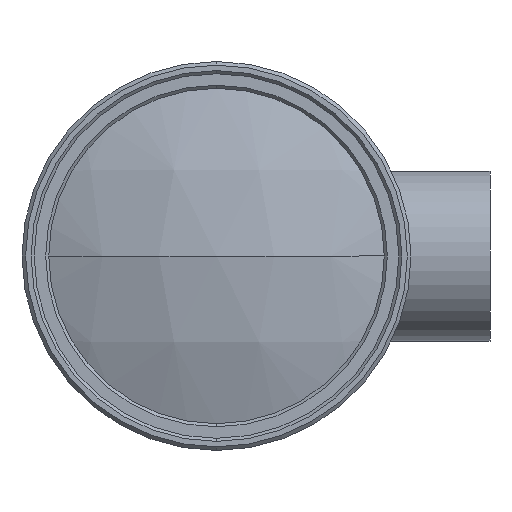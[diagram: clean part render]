
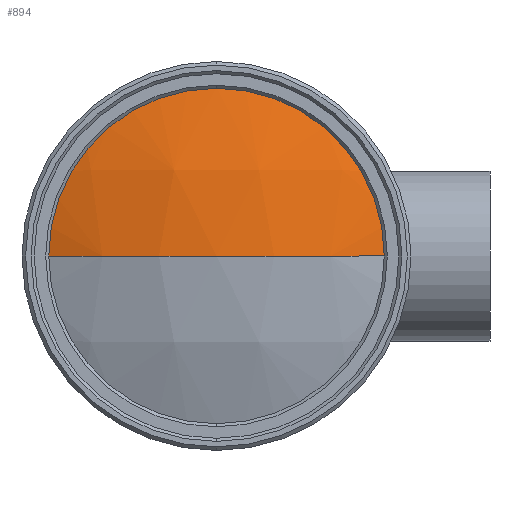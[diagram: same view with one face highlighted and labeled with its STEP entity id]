
A CAD part, left-side view. The second image highlights one B-rep face of the part: STEP entity #894.
In plain terms, the highlighted spherical face has radius 36.75 mm.
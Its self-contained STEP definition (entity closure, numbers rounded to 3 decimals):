
#2 = DIRECTION ( 'NONE',  ( -1., 0., 0. ) ) ;
#82 = CARTESIAN_POINT ( 'NONE',  ( 5.632, -13.9, 0. ) ) ;
#214 = VERTEX_POINT ( 'NONE', #82 ) ;
#302 = AXIS2_PLACEMENT_3D ( 'NONE', #3986, #1995, #2 ) ;
#369 = ORIENTED_EDGE ( 'NONE', *, *, #2816, .T. ) ;
#394 = ORIENTED_EDGE ( 'NONE', *, *, #3576, .F. ) ;
#588 = AXIS2_PLACEMENT_3D ( 'NONE', #3138, #1162, #3483 ) ;
#760 = CIRCLE ( 'NONE', #2070, 36.75 ) ;
#892 = CARTESIAN_POINT ( 'NONE',  ( 5.632, 0., 13.9 ) ) ;
#894 = ADVANCED_FACE ( 'NONE', ( #1611 ), #2384, .T. ) ;
#975 = DIRECTION ( 'NONE',  ( 0., 0., -1. ) ) ;
#1039 = CARTESIAN_POINT ( 'NONE',  ( 39.652, 0., 0. ) ) ;
#1132 = CIRCLE ( 'NONE', #3709, 13.9 ) ;
#1162 = DIRECTION ( 'NONE',  ( 1., 0., 0. ) ) ;
#1203 = EDGE_CURVE ( 'NONE', #3591, #3445, #1132, .T. ) ;
#1255 = CARTESIAN_POINT ( 'NONE',  ( 5.632, 0., 0. ) ) ;
#1340 = CARTESIAN_POINT ( 'NONE',  ( 39.652, 0., 0. ) ) ;
#1611 = FACE_OUTER_BOUND ( 'NONE', #4018, .T. ) ;
#1669 = DIRECTION ( 'NONE',  ( 0., -1., 0. ) ) ;
#1854 = CARTESIAN_POINT ( 'NONE',  ( 2.902, 0., 0. ) ) ;
#1995 = DIRECTION ( 'NONE',  ( 0., 0., -1. ) ) ;
#2007 = DIRECTION ( 'NONE',  ( 0., 1., 0. ) ) ;
#2070 = AXIS2_PLACEMENT_3D ( 'NONE', #1340, #3656, #1669 ) ;
#2384 = SPHERICAL_SURFACE ( 'NONE', #3577, 36.75 ) ;
#2401 = ORIENTED_EDGE ( 'NONE', *, *, #1203, .F. ) ;
#2514 = EDGE_CURVE ( 'NONE', #3445, #214, #3669, .T. ) ;
#2816 = EDGE_CURVE ( 'NONE', #3387, #214, #760, .T. ) ;
#3138 = CARTESIAN_POINT ( 'NONE',  ( 5.632, 0., 0. ) ) ;
#3307 = CARTESIAN_POINT ( 'NONE',  ( 5.632, 13.9, 0. ) ) ;
#3340 = ORIENTED_EDGE ( 'NONE', *, *, #2514, .F. ) ;
#3387 = VERTEX_POINT ( 'NONE', #1854 ) ;
#3445 = VERTEX_POINT ( 'NONE', #892 ) ;
#3483 = DIRECTION ( 'NONE',  ( 0., 0., -1. ) ) ;
#3531 = DIRECTION ( 'NONE',  ( 1., 0., 0. ) ) ;
#3576 = EDGE_CURVE ( 'NONE', #3387, #3591, #3917, .T. ) ;
#3577 = AXIS2_PLACEMENT_3D ( 'NONE', #1039, #3694, #2007 ) ;
#3591 = VERTEX_POINT ( 'NONE', #3307 ) ;
#3656 = DIRECTION ( 'NONE',  ( 0., 0., 1. ) ) ;
#3669 = CIRCLE ( 'NONE', #588, 13.9 ) ;
#3694 = DIRECTION ( 'NONE',  ( 0., 0., 1. ) ) ;
#3709 = AXIS2_PLACEMENT_3D ( 'NONE', #1255, #3531, #975 ) ;
#3917 = CIRCLE ( 'NONE', #302, 36.75 ) ;
#3986 = CARTESIAN_POINT ( 'NONE',  ( 39.652, 0., 0. ) ) ;
#4018 = EDGE_LOOP ( 'NONE', ( #394, #369, #3340, #2401 ) ) ;
